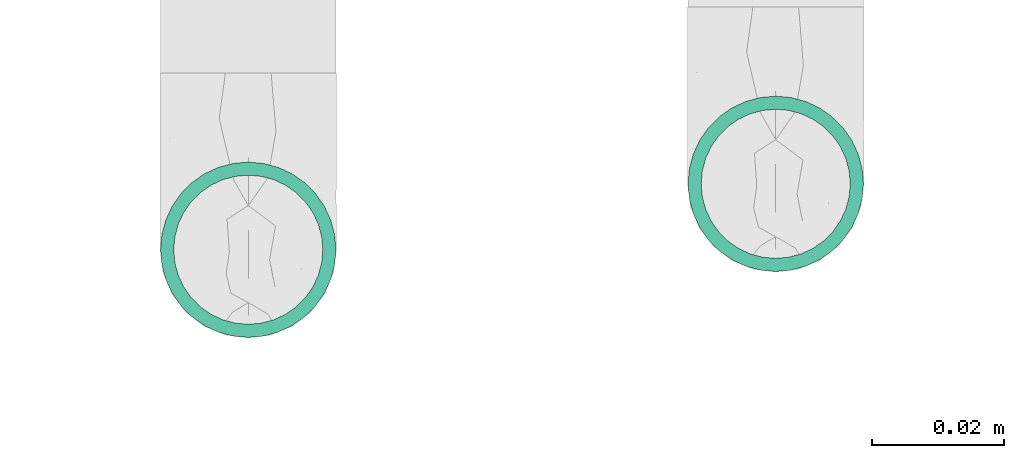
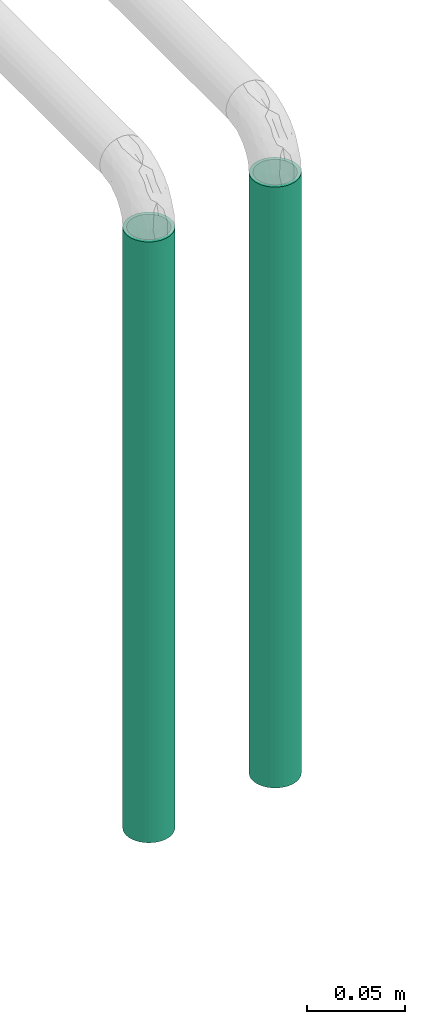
# One storey, part 136 of 156: 2 flow segments.
"""IFC2X3 building model written with IfcOpenShell, lengths in millimetres."""

from ifc_helpers import new_model, entity, si_unit, converted_unit, derived_unit, direction, frame, place, context, subcontext, project, spatial, faceted_brep, type_object, element, save


model = new_model("IFC2X3")

# Units and contexts
model_context = context("Model", 3, precision=0.01, world=frame((0.0, 4.29681676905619e-09, 0.0)), true_north=direction((4.01073788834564e-13, 1.0)))
plan_context = context("Plan", 3, precision=0.01, world=frame((0.0, 4.29681676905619e-09, 0.0)), true_north=direction((4.01073788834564e-13, 1.0)))
body_context = subcontext(model_context, "Body", "Model", "MODEL_VIEW")
ifc_project = project(units=[converted_unit("PLANEANGLEUNIT", "DEGREE", entity("IfcPositiveLengthMeasure", 0.0174532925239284), si_unit("PLANEANGLEUNIT", "RADIAN"), dimensions=[0, 0, 0, 0, 0, 0, 0]), si_unit("AREAUNIT", "SQUARE_METRE"), si_unit("LENGTHUNIT", "METRE", prefix="MILLI"), si_unit("MASSUNIT", "GRAM", prefix="KILO"), si_unit("POWERUNIT", "WATT"), si_unit("PRESSUREUNIT", "PASCAL", prefix="KILO"), si_unit("FORCEUNIT", "NEWTON", prefix="KILO"), si_unit("ELECTRICVOLTAGEUNIT", "VOLT"), si_unit("ELECTRICCURRENTUNIT", "AMPERE"), si_unit("THERMODYNAMICTEMPERATUREUNIT", "DEGREE_CELSIUS"), si_unit("TIMEUNIT", "SECOND"), si_unit("VOLUMEUNIT", "CUBIC_METRE"), derived_unit("LINEARVELOCITYUNIT", [(si_unit("LENGTHUNIT", "METRE"), 1), (si_unit("TIMEUNIT", "SECOND"), -1)]), derived_unit("VOLUMETRICFLOWRATEUNIT", [(si_unit("VOLUMEUNIT", "CUBIC_METRE"), 1), (si_unit("TIMEUNIT", "SECOND"), -1)]), derived_unit("THERMALTRANSMITTANCEUNIT", [(si_unit("POWERUNIT", "WATT"), 1), (si_unit("THERMODYNAMICTEMPERATUREUNIT", "KELVIN"), -1), (si_unit("AREAUNIT", "SQUARE_METRE"), -1)]), derived_unit("SOUNDPRESSUREUNIT", [(si_unit("PRESSUREUNIT", "PASCAL"), 1)])], contexts=[model_context, plan_context])

# Site, building, storey
site_placement = place(None, frame((0.0, -4.29681676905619e-09, 0.0), z_axis=(0.0, 0.0, 1.0), x_axis=(1.0, 0.0, 0.0)))
site = spatial("IfcSite", under=ifc_project, at=site_placement, CompositionType="ELEMENT")
building_placement = place(site_placement, frame((0.0, 4.29681676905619e-09, 0.0), z_axis=(0.0, 0.0, 1.0), x_axis=(1.0, 0.0, 0.0)))
building = spatial("IfcBuilding", under=site, at=building_placement, Name="mc-building", CompositionType="ELEMENT")
storey_placement = place(building_placement, frame((0.0, 0.0, 205200.0), z_axis=(0.0, 0.0, 1.0), x_axis=(1.0, 0.0, 0.0)))
storey = spatial("IfcBuildingStorey", under=building, at=storey_placement, Name="Nivå D + 1,2 m", CompositionType="ELEMENT", Elevation=205200.0)

# Flow segments
pipe_segment_type = type_object("IfcPipeSegmentType", Name="Stålrør normaltykke", PredefinedType="RIGIDSEGMENT")
flow_segment_1_placement = place(storey_placement, frame((325040.9735, 464467.01094, 20.0), z_axis=(0.0, 1.0, 0.0), x_axis=(0.0, 0.0, 1.0)))
element("IfcFlowSegment", 1, at=flow_segment_1_placement, inside=storey, type_object=pipe_segment_type, Name="Stålrør normaltykke", context=body_context, shape_type="Brep", body=[
    faceted_brep([(3980.0, 11.128327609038, -1.96222440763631), (3980.0, 11.3, 0.0), (4353.2, 11.3, 0.0), (4353.2, 11.128327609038, -1.96222440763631), (3980.0, 10.6185266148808, -3.86482761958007), (4353.2, 10.6185266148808, -3.86482761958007), (3980.0, 9.78608706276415, -5.65000000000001), (4353.2, 9.78608706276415, -5.65000000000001), (3980.0, 8.65630220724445, -7.2634999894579), (4353.2, 8.65630220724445, -7.2634999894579), (3980.0, 7.26349998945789, -8.65630220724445), (4353.2, 7.26349998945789, -8.65630220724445), (3980.0, 5.65, -9.78608706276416), (4353.2, 5.65, -9.78608706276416), (3980.0, 3.86482761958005, -10.6185266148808), (4353.2, 3.86482761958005, -10.6185266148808), (3980.0, 1.96222440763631, -11.128327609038), (4353.2, 1.96222440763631, -11.128327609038), (3980.0, -2.07577632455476e-15, -11.3), (4353.2, -2.07577632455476e-15, -11.3), (3980.0, -1.96222440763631, -11.128327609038), (4353.2, -1.96222440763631, -11.128327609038), (3980.0, -3.86482761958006, -10.6185266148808), (4353.2, -3.86482761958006, -10.6185266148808), (3980.0, -5.65000000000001, -9.78608706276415), (4353.2, -5.65000000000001, -9.78608706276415), (3980.0, -7.2634999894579, -8.65630220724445), (4353.2, -7.2634999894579, -8.65630220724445), (3980.0, -8.65630220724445, -7.26349998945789), (4353.2, -8.65630220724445, -7.26349998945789), (3980.0, -9.78608706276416, -5.65), (4353.2, -9.78608706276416, -5.65), (3980.0, -10.6185266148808, -3.86482761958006), (4353.2, -10.6185266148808, -3.86482761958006), (3980.0, -11.128327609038, -1.96222440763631), (4353.2, -11.128327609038, -1.96222440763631), (3980.0, -11.3, 1.38385088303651e-15), (4353.2, -11.3, 1.38385088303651e-15), (3980.0, -11.128327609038, 1.96222440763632), (4353.2, -11.128327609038, 1.96222440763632), (3980.0, -10.6185266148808, 3.86482761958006), (4353.2, -10.6185266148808, 3.86482761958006), (3980.0, -9.78608706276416, 5.65), (4353.2, -9.78608706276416, 5.65), (3980.0, -8.65630220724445, 7.2634999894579), (4353.2, -8.65630220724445, 7.2634999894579), (3980.0, -7.2634999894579, 8.65630220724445), (4353.2, -7.2634999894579, 8.65630220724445), (3980.0, -5.65, 9.78608706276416), (4353.2, -5.65, 9.78608706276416), (3980.0, -3.86482761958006, 10.6185266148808), (4353.2, -3.86482761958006, 10.6185266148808), (3980.0, -1.96222440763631, 11.128327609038), (4353.2, -1.96222440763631, 11.128327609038), (3980.0, 6.91925441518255e-16, 11.3), (4353.2, 6.91925441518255e-16, 11.3), (3980.0, 1.96222440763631, 11.128327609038), (4353.2, 1.96222440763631, 11.128327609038), (3980.0, 3.86482761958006, 10.6185266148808), (4353.2, 3.86482761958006, 10.6185266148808), (3980.0, 5.65, 9.78608706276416), (4353.2, 5.65, 9.78608706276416), (3980.0, 7.2634999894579, 8.65630220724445), (4353.2, 7.2634999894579, 8.65630220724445), (3980.0, 8.65630220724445, 7.26349998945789), (4353.2, 8.65630220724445, 7.26349998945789), (3980.0, 9.78608706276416, 5.65), (4353.2, 9.78608706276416, 5.65), (3980.0, 10.6185266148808, 3.86482761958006), (4353.2, 10.6185266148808, 3.86482761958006), (3980.0, 11.128327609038, 1.96222440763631), (4353.2, 11.128327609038, 1.96222440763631), (3980.0, 13.3, 0.0), (3980.0, 13.0979431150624, -2.30952076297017), (4353.2, 13.0979431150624, -2.30952076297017), (4353.2, 13.3, 0.0), (3980.0, 13.0979431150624, 2.30952076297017), (4353.2, 13.0979431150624, 2.30952076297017), (3980.0, 12.4979118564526, 4.54886790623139), (4353.2, 12.4979118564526, 4.54886790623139), (3980.0, 11.518137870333, 6.65), (4353.2, 11.518137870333, 6.65), (3980.0, 10.1883910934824, 8.54907520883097), (4353.2, 10.1883910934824, 8.54907520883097), (3980.0, 8.54907520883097, 10.1883910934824), (4353.2, 8.54907520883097, 10.1883910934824), (3980.0, 6.65, 11.518137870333), (4353.2, 6.65, 11.518137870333), (3980.0, 4.5488679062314, 12.4979118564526), (4353.2, 4.5488679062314, 12.4979118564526), (3980.0, 2.30952076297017, 13.0979431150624), (4353.2, 2.30952076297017, 13.0979431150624), (3980.0, 8.1439012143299e-16, 13.3), (4353.2, 8.1439012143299e-16, 13.3), (3980.0, -2.30952076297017, 13.0979431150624), (4353.2, -2.30952076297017, 13.0979431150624), (3980.0, -4.54886790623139, 12.4979118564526), (4353.2, -4.54886790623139, 12.4979118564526), (3980.0, -6.65, 11.518137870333), (4353.2, -6.65, 11.518137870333), (3980.0, -8.54907520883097, 10.1883910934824), (4353.2, -8.54907520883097, 10.1883910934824), (3980.0, -10.1883910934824, 8.54907520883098), (4353.2, -10.1883910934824, 8.54907520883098), (3980.0, -11.518137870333, 6.65), (4353.2, -11.518137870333, 6.65), (3980.0, -12.4979118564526, 4.5488679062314), (4353.2, -12.4979118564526, 4.5488679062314), (3980.0, -13.0979431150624, 2.30952076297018), (4353.2, -13.0979431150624, 2.30952076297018), (3980.0, -13.3, 1.62878024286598e-15), (4353.2, -13.3, 1.62878024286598e-15), (3980.0, -13.0979431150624, -2.30952076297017), (4353.2, -13.0979431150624, -2.30952076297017), (3980.0, -12.4979118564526, -4.54886790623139), (4353.2, -12.4979118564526, -4.54886790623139), (3980.0, -11.518137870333, -6.65), (4353.2, -11.518137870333, -6.65), (3980.0, -10.1883910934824, -8.54907520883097), (4353.2, -10.1883910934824, -8.54907520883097), (3980.0, -8.54907520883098, -10.1883910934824), (4353.2, -8.54907520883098, -10.1883910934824), (3980.0, -6.65000000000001, -11.518137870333), (4353.2, -6.65000000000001, -11.518137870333), (3980.0, -4.5488679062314, -12.4979118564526), (4353.2, -4.5488679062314, -12.4979118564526), (3980.0, -2.30952076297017, -13.0979431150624), (4353.2, -2.30952076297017, -13.0979431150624), (3980.0, -2.44317036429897e-15, -13.3), (4353.2, -2.44317036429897e-15, -13.3), (3980.0, 2.30952076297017, -13.0979431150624), (4353.2, 2.30952076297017, -13.0979431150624), (3980.0, 4.54886790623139, -12.4979118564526), (4353.2, 4.54886790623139, -12.4979118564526), (3980.0, 6.65, -11.518137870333), (4353.2, 6.65, -11.518137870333), (3980.0, 8.54907520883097, -10.1883910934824), (4353.2, 8.54907520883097, -10.1883910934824), (3980.0, 10.1883910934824, -8.54907520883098), (4353.2, 10.1883910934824, -8.54907520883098), (3980.0, 11.518137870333, -6.65000000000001), (4353.2, 11.518137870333, -6.65000000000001), (3980.0, 12.4979118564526, -4.5488679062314), (4353.2, 12.4979118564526, -4.5488679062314)], [[[0, 1, 2, 3]], [[4, 0, 3, 5]], [[6, 4, 5, 7]], [[8, 6, 7, 9]], [[10, 8, 9, 11]], [[12, 10, 11, 13]], [[14, 12, 13, 15]], [[16, 14, 15, 17]], [[18, 16, 17, 19]], [[20, 18, 19, 21]], [[22, 20, 21, 23]], [[24, 22, 23, 25]], [[26, 24, 25, 27]], [[28, 26, 27, 29]], [[30, 28, 29, 31]], [[32, 30, 31, 33]], [[34, 32, 33, 35]], [[36, 34, 35, 37]], [[38, 36, 37, 39]], [[40, 38, 39, 41]], [[42, 40, 41, 43]], [[44, 42, 43, 45]], [[46, 44, 45, 47]], [[48, 46, 47, 49]], [[50, 48, 49, 51]], [[52, 50, 51, 53]], [[54, 52, 53, 55]], [[56, 54, 55, 57]], [[58, 56, 57, 59]], [[60, 58, 59, 61]], [[62, 60, 61, 63]], [[64, 62, 63, 65]], [[66, 64, 65, 67]], [[68, 66, 67, 69]], [[70, 68, 69, 71]], [[1, 70, 71, 2]], [[72, 73, 74, 75]], [[76, 72, 75, 77]], [[78, 76, 77, 79]], [[80, 78, 79, 81]], [[82, 80, 81, 83]], [[84, 82, 83, 85]], [[86, 84, 85, 87]], [[88, 86, 87, 89]], [[90, 88, 89, 91]], [[92, 90, 91, 93]], [[94, 92, 93, 95]], [[96, 94, 95, 97]], [[98, 96, 97, 99]], [[100, 98, 99, 101]], [[102, 100, 101, 103]], [[104, 102, 103, 105]], [[106, 104, 105, 107]], [[108, 106, 107, 109]], [[110, 108, 109, 111]], [[112, 110, 111, 113]], [[114, 112, 113, 115]], [[116, 114, 115, 117]], [[118, 116, 117, 119]], [[120, 118, 119, 121]], [[122, 120, 121, 123]], [[124, 122, 123, 125]], [[126, 124, 125, 127]], [[128, 126, 127, 129]], [[130, 128, 129, 131]], [[132, 130, 131, 133]], [[134, 132, 133, 135]], [[136, 134, 135, 137]], [[138, 136, 137, 139]], [[140, 138, 139, 141]], [[142, 140, 141, 143]], [[73, 142, 143, 74]], [[75, 74, 143, 141, 139, 137, 135, 133, 131, 129, 127, 125, 123, 121, 119, 117, 115, 113, 111, 109, 107, 105, 103, 101, 99, 97, 95, 93, 91, 89, 87, 85, 83, 81, 79, 77], [2, 71, 69, 67, 65, 63, 61, 59, 57, 55, 53, 51, 49, 47, 45, 43, 41, 39, 37, 35, 33, 31, 29, 27, 25, 23, 21, 19, 17, 15, 13, 11, 9, 7, 5, 3]], [[76, 78, 80, 82, 84, 86, 88, 90, 92, 94, 96, 98, 100, 102, 104, 106, 108, 110, 112, 114, 116, 118, 120, 122, 124, 126, 128, 130, 132, 134, 136, 138, 140, 142, 73, 72], [4, 6, 8, 10, 12, 14, 16, 18, 20, 22, 24, 26, 28, 30, 32, 34, 36, 38, 40, 42, 44, 46, 48, 50, 52, 54, 56, 58, 60, 62, 64, 66, 68, 70, 1, 0]]], orient=[[False], [False], [False], [False], [False], [False], [False], [False], [False], [False], [False], [False], [False], [False], [False], [False], [False], [False], [False], [False], [False], [False], [False], [False], [False], [False], [False], [False], [False], [False], [False], [False], [False], [False], [False], [False], [False], [False], [False], [False], [False], [False], [False], [False], [False], [False], [False], [False], [False], [False], [False], [False], [False], [False], [False], [False], [False], [False], [False], [False], [False], [False], [False], [False], [False], [False], [False], [False], [False], [False], [False], [False], [False, False], [False, False]]),
])
flow_segment_2_placement = place(storey_placement, frame((325120.9735, 464477.01094, 20.0), z_axis=(0.0, 1.0, 0.0), x_axis=(0.0, 0.0, 1.0)))
element("IfcFlowSegment", 2, at=flow_segment_2_placement, inside=storey, type_object=pipe_segment_type, Name="Stålrør normaltykke", context=body_context, shape_type="Brep", body=[
    faceted_brep([(3980.0, 11.128327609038, -1.96222440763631), (3980.0, 11.3, 0.0), (4353.2, 11.3, 0.0), (4353.2, 11.128327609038, -1.96222440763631), (3980.0, 10.6185266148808, -3.86482761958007), (4353.2, 10.6185266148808, -3.86482761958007), (3980.0, 9.78608706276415, -5.65000000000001), (4353.2, 9.78608706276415, -5.65000000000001), (3980.0, 8.65630220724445, -7.2634999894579), (4353.2, 8.65630220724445, -7.2634999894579), (3980.0, 7.26349998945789, -8.65630220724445), (4353.2, 7.26349998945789, -8.65630220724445), (3980.0, 5.65, -9.78608706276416), (4353.2, 5.65, -9.78608706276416), (3980.0, 3.86482761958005, -10.6185266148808), (4353.2, 3.86482761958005, -10.6185266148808), (3980.0, 1.96222440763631, -11.128327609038), (4353.2, 1.96222440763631, -11.128327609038), (3980.0, -2.07577632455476e-15, -11.3), (4353.2, -2.07577632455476e-15, -11.3), (3980.0, -1.96222440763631, -11.128327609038), (4353.2, -1.96222440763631, -11.128327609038), (3980.0, -3.86482761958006, -10.6185266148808), (4353.2, -3.86482761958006, -10.6185266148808), (3980.0, -5.65000000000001, -9.78608706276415), (4353.2, -5.65000000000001, -9.78608706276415), (3980.0, -7.2634999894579, -8.65630220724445), (4353.2, -7.2634999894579, -8.65630220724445), (3980.0, -8.65630220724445, -7.26349998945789), (4353.2, -8.65630220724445, -7.26349998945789), (3980.0, -9.78608706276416, -5.65), (4353.2, -9.78608706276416, -5.65), (3980.0, -10.6185266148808, -3.86482761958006), (4353.2, -10.6185266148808, -3.86482761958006), (3980.0, -11.128327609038, -1.96222440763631), (4353.2, -11.128327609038, -1.96222440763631), (3980.0, -11.3, 1.38385088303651e-15), (4353.2, -11.3, 1.38385088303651e-15), (3980.0, -11.128327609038, 1.96222440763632), (4353.2, -11.128327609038, 1.96222440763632), (3980.0, -10.6185266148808, 3.86482761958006), (4353.2, -10.6185266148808, 3.86482761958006), (3980.0, -9.78608706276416, 5.65), (4353.2, -9.78608706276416, 5.65), (3980.0, -8.65630220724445, 7.2634999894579), (4353.2, -8.65630220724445, 7.2634999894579), (3980.0, -7.2634999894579, 8.65630220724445), (4353.2, -7.2634999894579, 8.65630220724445), (3980.0, -5.65, 9.78608706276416), (4353.2, -5.65, 9.78608706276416), (3980.0, -3.86482761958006, 10.6185266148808), (4353.2, -3.86482761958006, 10.6185266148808), (3980.0, -1.96222440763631, 11.128327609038), (4353.2, -1.96222440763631, 11.128327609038), (3980.0, 6.91925441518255e-16, 11.3), (4353.2, 6.91925441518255e-16, 11.3), (3980.0, 1.96222440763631, 11.128327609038), (4353.2, 1.96222440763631, 11.128327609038), (3980.0, 3.86482761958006, 10.6185266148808), (4353.2, 3.86482761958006, 10.6185266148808), (3980.0, 5.65, 9.78608706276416), (4353.2, 5.65, 9.78608706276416), (3980.0, 7.2634999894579, 8.65630220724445), (4353.2, 7.2634999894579, 8.65630220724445), (3980.0, 8.65630220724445, 7.26349998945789), (4353.2, 8.65630220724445, 7.26349998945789), (3980.0, 9.78608706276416, 5.65), (4353.2, 9.78608706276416, 5.65), (3980.0, 10.6185266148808, 3.86482761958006), (4353.2, 10.6185266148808, 3.86482761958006), (3980.0, 11.128327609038, 1.96222440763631), (4353.2, 11.128327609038, 1.96222440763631), (3980.0, 13.3, 0.0), (3980.0, 13.0979431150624, -2.30952076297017), (4353.2, 13.0979431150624, -2.30952076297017), (4353.2, 13.3, 0.0), (3980.0, 13.0979431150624, 2.30952076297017), (4353.2, 13.0979431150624, 2.30952076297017), (3980.0, 12.4979118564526, 4.54886790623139), (4353.2, 12.4979118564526, 4.54886790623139), (3980.0, 11.518137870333, 6.65), (4353.2, 11.518137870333, 6.65), (3980.0, 10.1883910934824, 8.54907520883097), (4353.2, 10.1883910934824, 8.54907520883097), (3980.0, 8.54907520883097, 10.1883910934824), (4353.2, 8.54907520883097, 10.1883910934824), (3980.0, 6.65, 11.518137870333), (4353.2, 6.65, 11.518137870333), (3980.0, 4.5488679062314, 12.4979118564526), (4353.2, 4.5488679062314, 12.4979118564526), (3980.0, 2.30952076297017, 13.0979431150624), (4353.2, 2.30952076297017, 13.0979431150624), (3980.0, 8.1439012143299e-16, 13.3), (4353.2, 8.1439012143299e-16, 13.3), (3980.0, -2.30952076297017, 13.0979431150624), (4353.2, -2.30952076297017, 13.0979431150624), (3980.0, -4.54886790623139, 12.4979118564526), (4353.2, -4.54886790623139, 12.4979118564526), (3980.0, -6.65, 11.518137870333), (4353.2, -6.65, 11.518137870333), (3980.0, -8.54907520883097, 10.1883910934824), (4353.2, -8.54907520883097, 10.1883910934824), (3980.0, -10.1883910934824, 8.54907520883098), (4353.2, -10.1883910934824, 8.54907520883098), (3980.0, -11.518137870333, 6.65), (4353.2, -11.518137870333, 6.65), (3980.0, -12.4979118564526, 4.5488679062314), (4353.2, -12.4979118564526, 4.5488679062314), (3980.0, -13.0979431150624, 2.30952076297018), (4353.2, -13.0979431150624, 2.30952076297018), (3980.0, -13.3, 1.62878024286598e-15), (4353.2, -13.3, 1.62878024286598e-15), (3980.0, -13.0979431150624, -2.30952076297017), (4353.2, -13.0979431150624, -2.30952076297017), (3980.0, -12.4979118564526, -4.54886790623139), (4353.2, -12.4979118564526, -4.54886790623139), (3980.0, -11.518137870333, -6.65), (4353.2, -11.518137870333, -6.65), (3980.0, -10.1883910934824, -8.54907520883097), (4353.2, -10.1883910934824, -8.54907520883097), (3980.0, -8.54907520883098, -10.1883910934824), (4353.2, -8.54907520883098, -10.1883910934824), (3980.0, -6.65000000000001, -11.518137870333), (4353.2, -6.65000000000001, -11.518137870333), (3980.0, -4.5488679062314, -12.4979118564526), (4353.2, -4.5488679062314, -12.4979118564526), (3980.0, -2.30952076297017, -13.0979431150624), (4353.2, -2.30952076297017, -13.0979431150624), (3980.0, -2.44317036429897e-15, -13.3), (4353.2, -2.44317036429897e-15, -13.3), (3980.0, 2.30952076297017, -13.0979431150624), (4353.2, 2.30952076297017, -13.0979431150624), (3980.0, 4.54886790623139, -12.4979118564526), (4353.2, 4.54886790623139, -12.4979118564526), (3980.0, 6.65, -11.518137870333), (4353.2, 6.65, -11.518137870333), (3980.0, 8.54907520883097, -10.1883910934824), (4353.2, 8.54907520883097, -10.1883910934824), (3980.0, 10.1883910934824, -8.54907520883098), (4353.2, 10.1883910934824, -8.54907520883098), (3980.0, 11.518137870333, -6.65000000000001), (4353.2, 11.518137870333, -6.65000000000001), (3980.0, 12.4979118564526, -4.5488679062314), (4353.2, 12.4979118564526, -4.5488679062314)], [[[0, 1, 2, 3]], [[4, 0, 3, 5]], [[6, 4, 5, 7]], [[8, 6, 7, 9]], [[10, 8, 9, 11]], [[12, 10, 11, 13]], [[14, 12, 13, 15]], [[16, 14, 15, 17]], [[18, 16, 17, 19]], [[20, 18, 19, 21]], [[22, 20, 21, 23]], [[24, 22, 23, 25]], [[26, 24, 25, 27]], [[28, 26, 27, 29]], [[30, 28, 29, 31]], [[32, 30, 31, 33]], [[34, 32, 33, 35]], [[36, 34, 35, 37]], [[38, 36, 37, 39]], [[40, 38, 39, 41]], [[42, 40, 41, 43]], [[44, 42, 43, 45]], [[46, 44, 45, 47]], [[48, 46, 47, 49]], [[50, 48, 49, 51]], [[52, 50, 51, 53]], [[54, 52, 53, 55]], [[56, 54, 55, 57]], [[58, 56, 57, 59]], [[60, 58, 59, 61]], [[62, 60, 61, 63]], [[64, 62, 63, 65]], [[66, 64, 65, 67]], [[68, 66, 67, 69]], [[70, 68, 69, 71]], [[1, 70, 71, 2]], [[72, 73, 74, 75]], [[76, 72, 75, 77]], [[78, 76, 77, 79]], [[80, 78, 79, 81]], [[82, 80, 81, 83]], [[84, 82, 83, 85]], [[86, 84, 85, 87]], [[88, 86, 87, 89]], [[90, 88, 89, 91]], [[92, 90, 91, 93]], [[94, 92, 93, 95]], [[96, 94, 95, 97]], [[98, 96, 97, 99]], [[100, 98, 99, 101]], [[102, 100, 101, 103]], [[104, 102, 103, 105]], [[106, 104, 105, 107]], [[108, 106, 107, 109]], [[110, 108, 109, 111]], [[112, 110, 111, 113]], [[114, 112, 113, 115]], [[116, 114, 115, 117]], [[118, 116, 117, 119]], [[120, 118, 119, 121]], [[122, 120, 121, 123]], [[124, 122, 123, 125]], [[126, 124, 125, 127]], [[128, 126, 127, 129]], [[130, 128, 129, 131]], [[132, 130, 131, 133]], [[134, 132, 133, 135]], [[136, 134, 135, 137]], [[138, 136, 137, 139]], [[140, 138, 139, 141]], [[142, 140, 141, 143]], [[73, 142, 143, 74]], [[75, 74, 143, 141, 139, 137, 135, 133, 131, 129, 127, 125, 123, 121, 119, 117, 115, 113, 111, 109, 107, 105, 103, 101, 99, 97, 95, 93, 91, 89, 87, 85, 83, 81, 79, 77], [2, 71, 69, 67, 65, 63, 61, 59, 57, 55, 53, 51, 49, 47, 45, 43, 41, 39, 37, 35, 33, 31, 29, 27, 25, 23, 21, 19, 17, 15, 13, 11, 9, 7, 5, 3]], [[76, 78, 80, 82, 84, 86, 88, 90, 92, 94, 96, 98, 100, 102, 104, 106, 108, 110, 112, 114, 116, 118, 120, 122, 124, 126, 128, 130, 132, 134, 136, 138, 140, 142, 73, 72], [4, 6, 8, 10, 12, 14, 16, 18, 20, 22, 24, 26, 28, 30, 32, 34, 36, 38, 40, 42, 44, 46, 48, 50, 52, 54, 56, 58, 60, 62, 64, 66, 68, 70, 1, 0]]], orient=[[False], [False], [False], [False], [False], [False], [False], [False], [False], [False], [False], [False], [False], [False], [False], [False], [False], [False], [False], [False], [False], [False], [False], [False], [False], [False], [False], [False], [False], [False], [False], [False], [False], [False], [False], [False], [False], [False], [False], [False], [False], [False], [False], [False], [False], [False], [False], [False], [False], [False], [False], [False], [False], [False], [False], [False], [False], [False], [False], [False], [False], [False], [False], [False], [False], [False], [False], [False], [False], [False], [False], [False], [False, False], [False, False]]),
])

save(model, "model.ifc")
